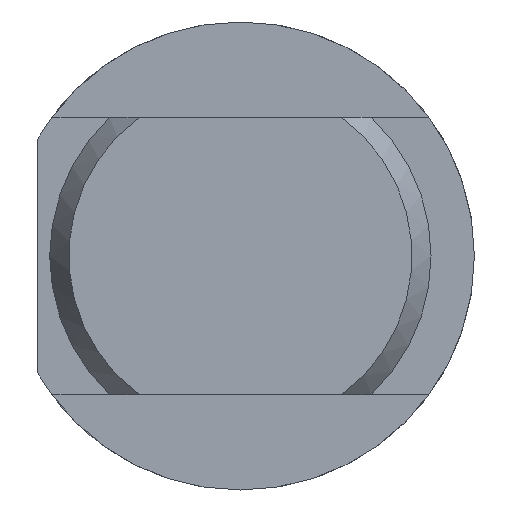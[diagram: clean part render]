
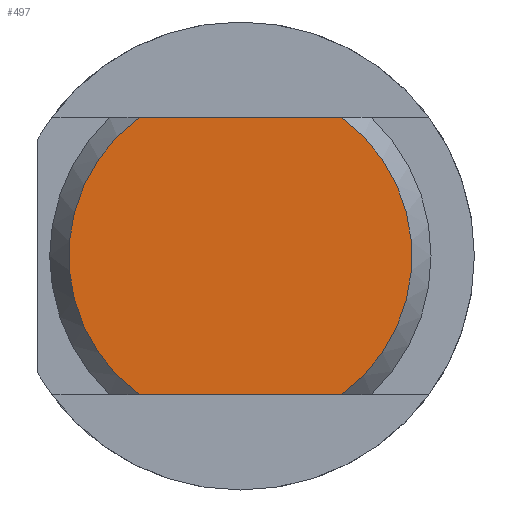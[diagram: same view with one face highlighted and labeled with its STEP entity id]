
A CAD part, left-side view. The second image highlights one B-rep face of the part: STEP entity #497.
In plain terms, the highlighted planar face has unit normal (-1, 0, 0).
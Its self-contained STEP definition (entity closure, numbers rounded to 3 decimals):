
#196 = EDGE_CURVE ( 'NONE', #2775, #311, #2177, .T. ) ;
#293 = CARTESIAN_POINT ( 'NONE',  ( -90., 0., 0. ) ) ;
#311 = VERTEX_POINT ( 'NONE', #643 ) ;
#497 = ADVANCED_FACE ( 'NONE', ( #2873 ), #2459, .T. ) ;
#568 = VERTEX_POINT ( 'NONE', #2094 ) ;
#643 = CARTESIAN_POINT ( 'NONE',  ( -90., 5.832, 8. ) ) ;
#646 = ORIENTED_EDGE ( 'NONE', *, *, #2358, .F. ) ;
#773 = DIRECTION ( 'NONE',  ( 1., 0., 0. ) ) ;
#787 = DIRECTION ( 'NONE',  ( 0., 1., 0. ) ) ;
#1033 = DIRECTION ( 'NONE',  ( -1., 0., 0. ) ) ;
#1084 = VERTEX_POINT ( 'NONE', #3109 ) ;
#1266 = ORIENTED_EDGE ( 'NONE', *, *, #2955, .T. ) ;
#1289 = ORIENTED_EDGE ( 'NONE', *, *, #196, .T. ) ;
#1323 = CARTESIAN_POINT ( 'NONE',  ( -90., -5.832, 8. ) ) ;
#1540 = AXIS2_PLACEMENT_3D ( 'NONE', #2449, #2196, #2434 ) ;
#1579 = LINE ( 'NONE', #1752, #1860 ) ;
#1666 = EDGE_CURVE ( 'NONE', #311, #568, #1839, .T. ) ;
#1752 = CARTESIAN_POINT ( 'NONE',  ( -90., 11.7, -8. ) ) ;
#1768 = VECTOR ( 'NONE', #787, 1000. ) ;
#1797 = EDGE_LOOP ( 'NONE', ( #1289, #2341, #1266, #646 ) ) ;
#1839 = CIRCLE ( 'NONE', #1540, 9.9 ) ;
#1860 = VECTOR ( 'NONE', #2509, 1000. ) ;
#1869 = CIRCLE ( 'NONE', #2951, 9.9 ) ;
#2008 = CARTESIAN_POINT ( 'NONE',  ( -90., 11.7, 8. ) ) ;
#2094 = CARTESIAN_POINT ( 'NONE',  ( -90., 5.832, -8. ) ) ;
#2177 = LINE ( 'NONE', #2008, #1768 ) ;
#2196 = DIRECTION ( 'NONE',  ( -1., 0., 0. ) ) ;
#2292 = AXIS2_PLACEMENT_3D ( 'NONE', #293, #1033, #2969 ) ;
#2341 = ORIENTED_EDGE ( 'NONE', *, *, #1666, .T. ) ;
#2358 = EDGE_CURVE ( 'NONE', #2775, #1084, #1869, .T. ) ;
#2434 = DIRECTION ( 'NONE',  ( 0., 0., -1. ) ) ;
#2449 = CARTESIAN_POINT ( 'NONE',  ( -90., 0., 0. ) ) ;
#2459 = PLANE ( 'NONE',  #2292 ) ;
#2509 = DIRECTION ( 'NONE',  ( 0., -1., 0. ) ) ;
#2775 = VERTEX_POINT ( 'NONE', #1323 ) ;
#2873 = FACE_OUTER_BOUND ( 'NONE', #1797, .T. ) ;
#2951 = AXIS2_PLACEMENT_3D ( 'NONE', #3022, #773, #3030 ) ;
#2955 = EDGE_CURVE ( 'NONE', #568, #1084, #1579, .T. ) ;
#2969 = DIRECTION ( 'NONE',  ( 0., 0., 1. ) ) ;
#3022 = CARTESIAN_POINT ( 'NONE',  ( -90., 0., 0. ) ) ;
#3030 = DIRECTION ( 'NONE',  ( 0., 0., -1. ) ) ;
#3109 = CARTESIAN_POINT ( 'NONE',  ( -90., -5.832, -8. ) ) ;
